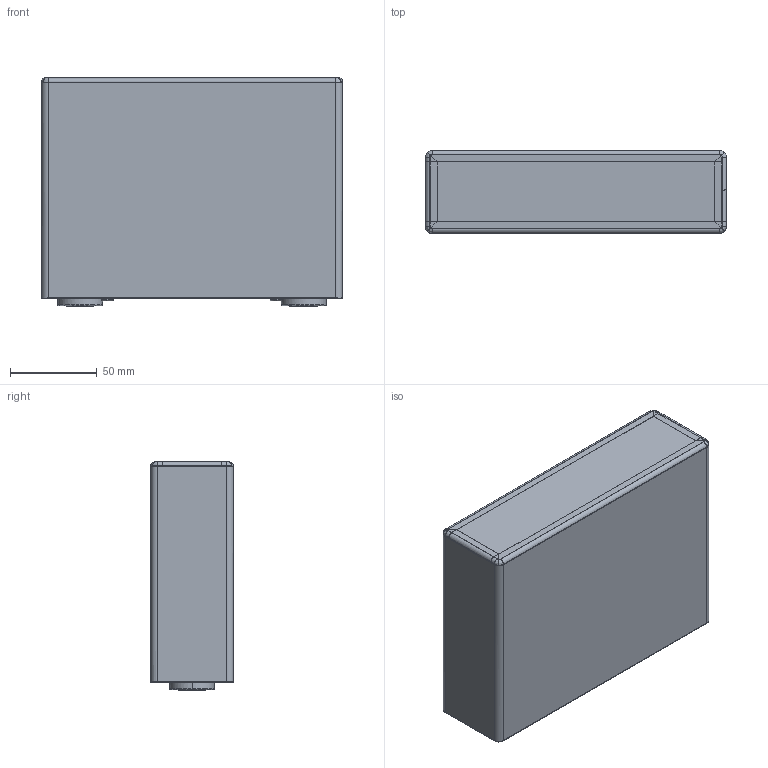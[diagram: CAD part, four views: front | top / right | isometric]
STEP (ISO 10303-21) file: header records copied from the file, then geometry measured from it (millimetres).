
FILE_DESCRIPTION((''),'2;1');
FILE_NAME('PRT0773','2019-11-22T',('Eco Power'),(''),'PRO/ENGINEER BY PARAMETRIC TECHNOLOGY CORPORATION, 2013050','PRO/ENGINEER BY PARAMETRIC TECHNOLOGY CORPORATION, 2013050','');
FILE_SCHEMA(('CONFIG_CONTROL_DESIGN'));
Length unit declared in the file: millimetre
Products named in the file (1): PRT0773
Bounding box: 173.9 x 47.7 x 132.2 mm (x, y, z)
Surface area: 274143.5 mm2
Topology: 3 solids, 7 shells, 292 faces, 750 edges, 473 vertices
Faces by surface type: plane 143, cylinder 111, bspline 20, torus 14, cone 4
Entity records: 9286 total; most frequent: CARTESIAN_POINT 2060, DIRECTION 1535, ORIENTED_EDGE 1474, EDGE_CURVE 750, AXIS2_PLACEMENT_3D 552, VERTEX_POINT 473, VECTOR 431, LINE 431
